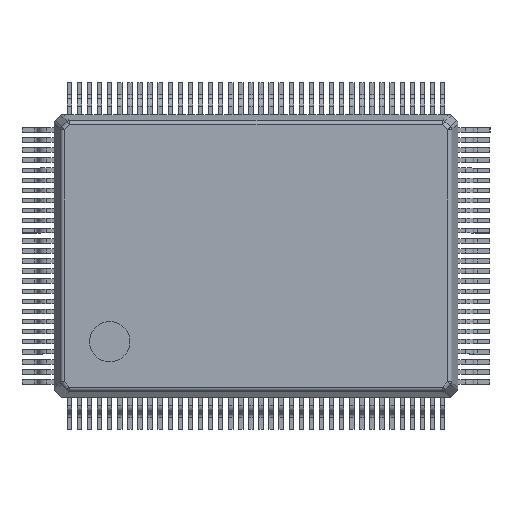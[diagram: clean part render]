
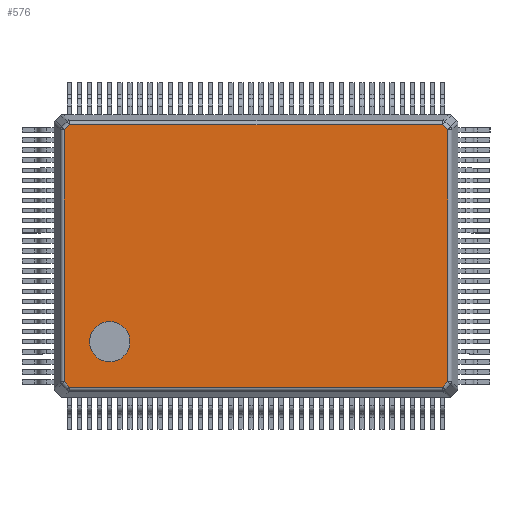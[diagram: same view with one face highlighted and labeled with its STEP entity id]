
A CAD part, top view. The second image highlights one B-rep face of the part: STEP entity #576.
In plain terms, the highlighted planar face has unit normal (0, 0, 1).
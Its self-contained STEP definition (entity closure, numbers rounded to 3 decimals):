
#336 = CARTESIAN_POINT ( 'NONE',  ( -9.512, 6.254, 2.9 ) ) ;
#340 = ORIENTED_EDGE ( 'NONE', *, *, #54629, .T. ) ;
#347 = LINE ( 'NONE', #23666, #7311 ) ;
#576 = ADVANCED_FACE ( 'NONE', ( #7168, #15790 ), #44865, .T. ) ;
#1047 = VECTOR ( 'NONE', #9734, 1000. ) ;
#1609 = EDGE_CURVE ( 'NONE', #45036, #20474, #40259, .T. ) ;
#3234 = ORIENTED_EDGE ( 'NONE', *, *, #1609, .F. ) ;
#3520 = VECTOR ( 'NONE', #21266, 1000. ) ;
#4772 = CARTESIAN_POINT ( 'NONE',  ( 5.667, 9.832, 2.9 ) ) ;
#6685 = ORIENTED_EDGE ( 'NONE', *, *, #21355, .T. ) ;
#6869 = DIRECTION ( 'NONE',  ( 0., 1., 0. ) ) ;
#7168 = FACE_BOUND ( 'NONE', #34678, .T. ) ;
#7183 = CARTESIAN_POINT ( 'NONE',  ( 9.512, -7., 2.9 ) ) ;
#7311 = VECTOR ( 'NONE', #42369, 1000. ) ;
#8488 = CARTESIAN_POINT ( 'NONE',  ( 9.512, 6.254, 2.9 ) ) ;
#9177 = CIRCLE ( 'NONE', #32668, 1. ) ;
#9439 = LINE ( 'NONE', #4772, #1047 ) ;
#9734 = DIRECTION ( 'NONE',  ( -0.732, 0.681, 0. ) ) ;
#10545 = VECTOR ( 'NONE', #53219, 1000. ) ;
#11105 = ORIENTED_EDGE ( 'NONE', *, *, #27442, .T. ) ;
#11234 = CARTESIAN_POINT ( 'NONE',  ( -9.357, -6.401, 2.9 ) ) ;
#11457 = EDGE_CURVE ( 'NONE', #20474, #45036, #9177, .T. ) ;
#11509 = CARTESIAN_POINT ( 'NONE',  ( 0.073, -16.376, 2.9 ) ) ;
#12188 = ORIENTED_EDGE ( 'NONE', *, *, #51258, .T. ) ;
#12217 = VERTEX_POINT ( 'NONE', #19979 ) ;
#12284 = VECTOR ( 'NONE', #6869, 1000. ) ;
#14557 = VERTEX_POINT ( 'NONE', #18156 ) ;
#15790 = FACE_OUTER_BOUND ( 'NONE', #47584, .T. ) ;
#15805 = LINE ( 'NONE', #11234, #24976 ) ;
#16451 = LINE ( 'NONE', #29954, #28629 ) ;
#16687 = DIRECTION ( 'NONE',  ( 0.681, -0.732, 0. ) ) ;
#17663 = ORIENTED_EDGE ( 'NONE', *, *, #42527, .T. ) ;
#17698 = VERTEX_POINT ( 'NONE', #59909 ) ;
#18119 = CARTESIAN_POINT ( 'NONE',  ( -6.25, -4.25, 2.9 ) ) ;
#18156 = CARTESIAN_POINT ( 'NONE',  ( 9.235, 6.512, 2.9 ) ) ;
#18457 = CARTESIAN_POINT ( 'NONE',  ( -9.254, -6.512, 2.9 ) ) ;
#19065 = ORIENTED_EDGE ( 'NONE', *, *, #11457, .F. ) ;
#19390 = VERTEX_POINT ( 'NONE', #47578 ) ;
#19522 = ORIENTED_EDGE ( 'NONE', *, *, #40180, .T. ) ;
#19979 = CARTESIAN_POINT ( 'NONE',  ( -9.235, 6.512, 2.9 ) ) ;
#20098 = CARTESIAN_POINT ( 'NONE',  ( -7.25, -4.25, 2.9 ) ) ;
#20389 = DIRECTION ( 'NONE',  ( 0., 0., 1. ) ) ;
#20474 = VERTEX_POINT ( 'NONE', #23686 ) ;
#20663 = DIRECTION ( 'NONE',  ( 0., 0., 1. ) ) ;
#21266 = DIRECTION ( 'NONE',  ( 0.681, 0.732, 0. ) ) ;
#21355 = EDGE_CURVE ( 'NONE', #45232, #25897, #15805, .T. ) ;
#23666 = CARTESIAN_POINT ( 'NONE',  ( -9.512, -7., 2.9 ) ) ;
#23686 = CARTESIAN_POINT ( 'NONE',  ( -8.25, -4.25, 2.9 ) ) ;
#24976 = VECTOR ( 'NONE', #16687, 1000. ) ;
#25269 = DIRECTION ( 'NONE',  ( 1., 0., 0. ) ) ;
#25897 = VERTEX_POINT ( 'NONE', #18457 ) ;
#27442 = EDGE_CURVE ( 'NONE', #49386, #14557, #9439, .T. ) ;
#28522 = CARTESIAN_POINT ( 'NONE',  ( -9.512, -6.235, 2.9 ) ) ;
#28629 = VECTOR ( 'NONE', #49259, 1000. ) ;
#29510 = AXIS2_PLACEMENT_3D ( 'NONE', #20098, #20389, #38811 ) ;
#29954 = CARTESIAN_POINT ( 'NONE',  ( -10., -6.512, 2.9 ) ) ;
#31490 = AXIS2_PLACEMENT_3D ( 'NONE', #58103, #20663, #25269 ) ;
#31561 = VECTOR ( 'NONE', #40804, 1000. ) ;
#32668 = AXIS2_PLACEMENT_3D ( 'NONE', #47737, #56334, #48028 ) ;
#34678 = EDGE_LOOP ( 'NONE', ( #3234, #19065 ) ) ;
#38103 = VERTEX_POINT ( 'NONE', #336 ) ;
#38811 = DIRECTION ( 'NONE',  ( 1., 0., 0. ) ) ;
#39610 = CARTESIAN_POINT ( 'NONE',  ( -16.383, -0.142, 2.9 ) ) ;
#40180 = EDGE_CURVE ( 'NONE', #12217, #38103, #44188, .T. ) ;
#40259 = CIRCLE ( 'NONE', #29510, 1. ) ;
#40804 = DIRECTION ( 'NONE',  ( -0.732, -0.681, 0. ) ) ;
#41519 = ORIENTED_EDGE ( 'NONE', *, *, #43429, .T. ) ;
#42150 = LINE ( 'NONE', #56297, #10545 ) ;
#42369 = DIRECTION ( 'NONE',  ( 0., -1., 0. ) ) ;
#42527 = EDGE_CURVE ( 'NONE', #19390, #49386, #44881, .T. ) ;
#43429 = EDGE_CURVE ( 'NONE', #17698, #19390, #43971, .T. ) ;
#43971 = LINE ( 'NONE', #11509, #3520 ) ;
#44188 = LINE ( 'NONE', #39610, #31561 ) ;
#44865 = PLANE ( 'NONE',  #31490 ) ;
#44881 = LINE ( 'NONE', #7183, #12284 ) ;
#45036 = VERTEX_POINT ( 'NONE', #18119 ) ;
#45232 = VERTEX_POINT ( 'NONE', #28522 ) ;
#47578 = CARTESIAN_POINT ( 'NONE',  ( 9.512, -6.235, 2.9 ) ) ;
#47584 = EDGE_LOOP ( 'NONE', ( #17663, #11105, #49683, #19522, #340, #6685, #12188, #41519 ) ) ;
#47737 = CARTESIAN_POINT ( 'NONE',  ( -7.25, -4.25, 2.9 ) ) ;
#48028 = DIRECTION ( 'NONE',  ( 1., 0., 0. ) ) ;
#49259 = DIRECTION ( 'NONE',  ( 1., 0., 0. ) ) ;
#49386 = VERTEX_POINT ( 'NONE', #8488 ) ;
#49683 = ORIENTED_EDGE ( 'NONE', *, *, #57048, .T. ) ;
#51258 = EDGE_CURVE ( 'NONE', #25897, #17698, #16451, .T. ) ;
#53219 = DIRECTION ( 'NONE',  ( -1., 0., 0. ) ) ;
#54629 = EDGE_CURVE ( 'NONE', #38103, #45232, #347, .T. ) ;
#56297 = CARTESIAN_POINT ( 'NONE',  ( -10., 6.512, 2.9 ) ) ;
#56334 = DIRECTION ( 'NONE',  ( 0., 0., 1. ) ) ;
#57048 = EDGE_CURVE ( 'NONE', #14557, #12217, #42150, .T. ) ;
#58103 = CARTESIAN_POINT ( 'NONE',  ( -10., -7., 2.9 ) ) ;
#59909 = CARTESIAN_POINT ( 'NONE',  ( 9.254, -6.512, 2.9 ) ) ;
